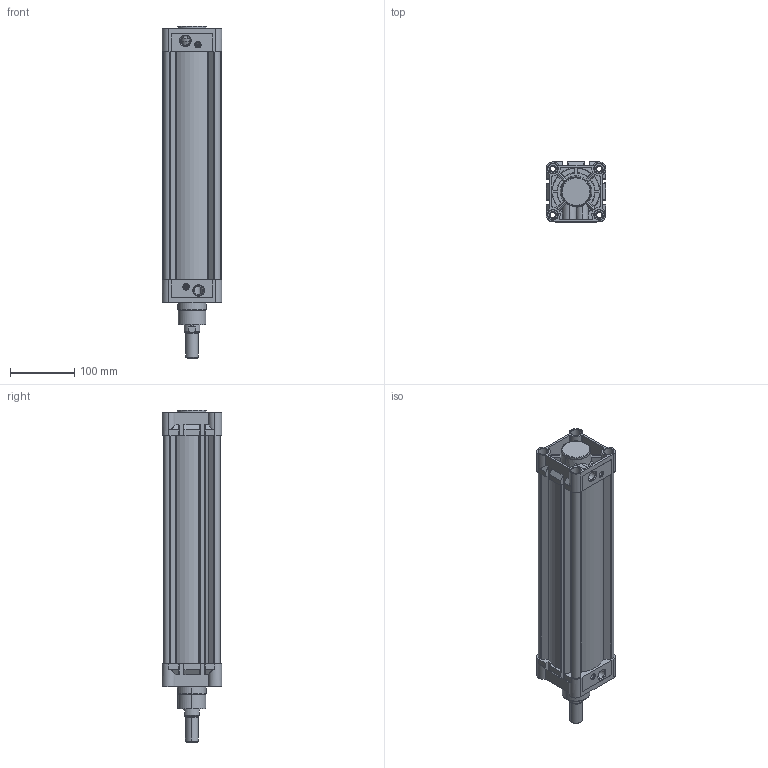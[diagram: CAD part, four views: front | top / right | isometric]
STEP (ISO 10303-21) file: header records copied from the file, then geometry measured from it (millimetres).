
FILE_DESCRIPTION (( 'STEP AP203' ), '1' );
FILE_NAME ('KDNT80x300CYLINDER.STEP', '2015-03-09T08:54:01', ( 'user' ), ( '' ), 'SwSTEP 2.0', 'SolidWorks 2013', '' );
FILE_SCHEMA (( 'CONFIG_CONTROL_DESIGN' ));
Length unit declared in the file: millimetre
Products named in the file (6): ARKA KAPAK  80; ORTA P¦STON 80; Piston Mili 80x300; 泩 KAPAK  80; KDNT 80X300 BORU; KDNT80x300CYLINDER
Assembly tree (5 placements, depth 2):
  KDNT80x300CYLINDER
    ARKA KAPAK  80
    ORTA P¦STON 80
    Piston Mili 80x300
    泩 KAPAK  80
    KDNT 80X300 BORU
Bounding box: 93 x 93.3 x 518 mm (x, y, z)
Volume: 1181656.6 mm3; surface area: 506327.3 mm2
Topology: 5 solids, 6 shells, 1022 faces, 2731 edges, 1731 vertices
Faces by surface type: cylinder 423, plane 306, cone 193, bspline 60, sphere 40
Entity records: 43219 total; most frequent: CARTESIAN_POINT 18875, ORIENTED_EDGE 5342, DIRECTION 4414, EDGE_CURVE 2671, VERTEX_POINT 1709, AXIS2_PLACEMENT_3D 1685, EDGE_LOOP 1120, LINE 1044
